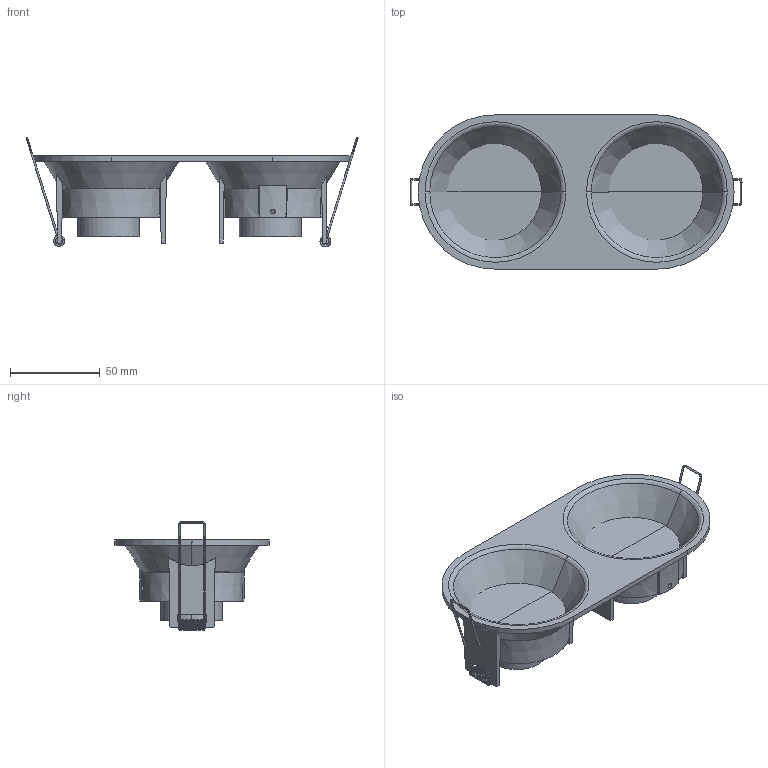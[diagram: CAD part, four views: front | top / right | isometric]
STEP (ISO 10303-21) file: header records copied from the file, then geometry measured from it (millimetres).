
FILE_DESCRIPTION(/* description */ (''),/* implementation_level */ '2;1');
FILE_NAME(/* name */ 'gas_recessed.step',/* time_stamp */ '2024-12-02T09:48:46+01:00',/* author */ ('RenataManzini'),/* organization */ (''),/* preprocessor_version */ 'ST-DEVELOPER v20',/* originating_system */ 'AutoCAD Mechanical',/* authorisation */ '');
FILE_SCHEMA (('AUTOMOTIVE_DESIGN { 1 0 10303 214 3 1 1 }'));
Length unit declared in the file: millimetre
Products named in the file (3): Product; Z-093.stp; TANHUANG.stp
Assembly tree (3 placements, depth 2):
  Product
    Z-093.stp
    TANHUANG.stp  x2
Bounding box: 185.01 x 86 x 61.08 mm (x, y, z)
Volume: 72614.6 mm3; surface area: 63324.9 mm2
Topology: 2 solids, 277 shells, 291 faces, 1342 edges, 1330 vertices
Faces by surface type: plane 93, cylinder 71, bspline 58, cone 37, torus 32
Entity records: 24432 total; most frequent: CARTESIAN_POINT 15489, DIRECTION 1673, ORIENTED_EDGE 1140, EDGE_CURVE 1116, VERTEX_POINT 1104, AXIS2_PLACEMENT_3D 597, LINE 479, VECTOR 479
